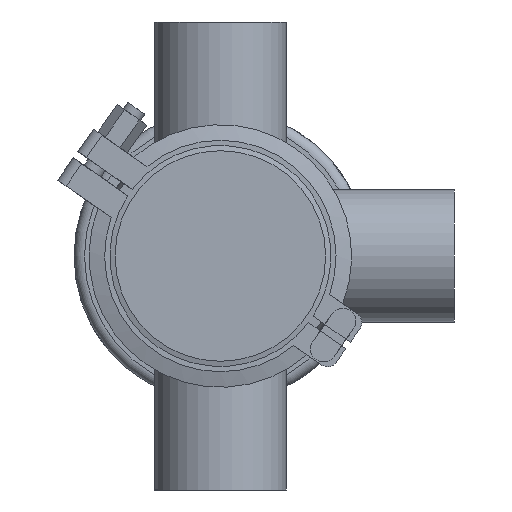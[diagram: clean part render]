
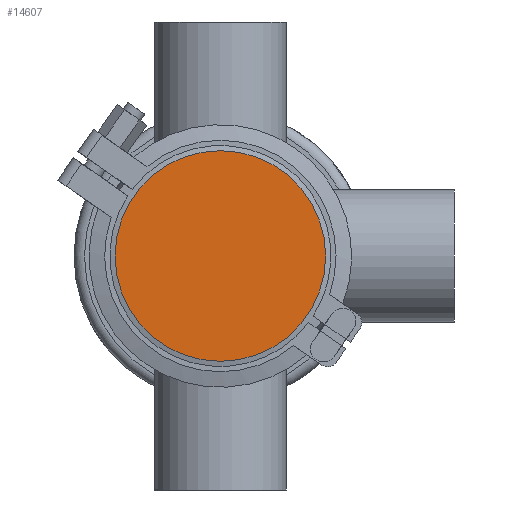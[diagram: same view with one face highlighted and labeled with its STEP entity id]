
A CAD part, front view. The second image highlights one B-rep face of the part: STEP entity #14607.
In plain terms, the highlighted planar face has unit normal (0, -1, 0).
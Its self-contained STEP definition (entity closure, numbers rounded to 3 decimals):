
#3302 = CIRCLE ( 'NONE', #7800, 40.5 ) ;
#3463 = ORIENTED_EDGE ( 'NONE', *, *, #14833, .F. ) ;
#4807 = EDGE_LOOP ( 'NONE', ( #3463 ) ) ;
#4947 = VERTEX_POINT ( 'NONE', #16455 ) ;
#6316 = DIRECTION ( 'NONE',  ( 0., -1., 0. ) ) ;
#7800 = AXIS2_PLACEMENT_3D ( 'NONE', #20176, #8910, #13714 ) ;
#7927 = CARTESIAN_POINT ( 'NONE',  ( -40.5, 0., 0. ) ) ;
#8645 = DIRECTION ( 'NONE',  ( 0., 0., -1. ) ) ;
#8910 = DIRECTION ( 'NONE',  ( 0., 1., 0. ) ) ;
#12664 = AXIS2_PLACEMENT_3D ( 'NONE', #7927, #6316, #8645 ) ;
#13714 = DIRECTION ( 'NONE',  ( 0., 0., 1. ) ) ;
#14607 = ADVANCED_FACE ( 'NONE', ( #21329 ), #16179, .T. ) ;
#14833 = EDGE_CURVE ( 'NONE', #4947, #4947, #3302, .T. ) ;
#16179 = PLANE ( 'NONE',  #12664 ) ;
#16455 = CARTESIAN_POINT ( 'NONE',  ( 0., 0., 40.5 ) ) ;
#20176 = CARTESIAN_POINT ( 'NONE',  ( 0., 0., 0. ) ) ;
#21329 = FACE_OUTER_BOUND ( 'NONE', #4807, .T. ) ;
